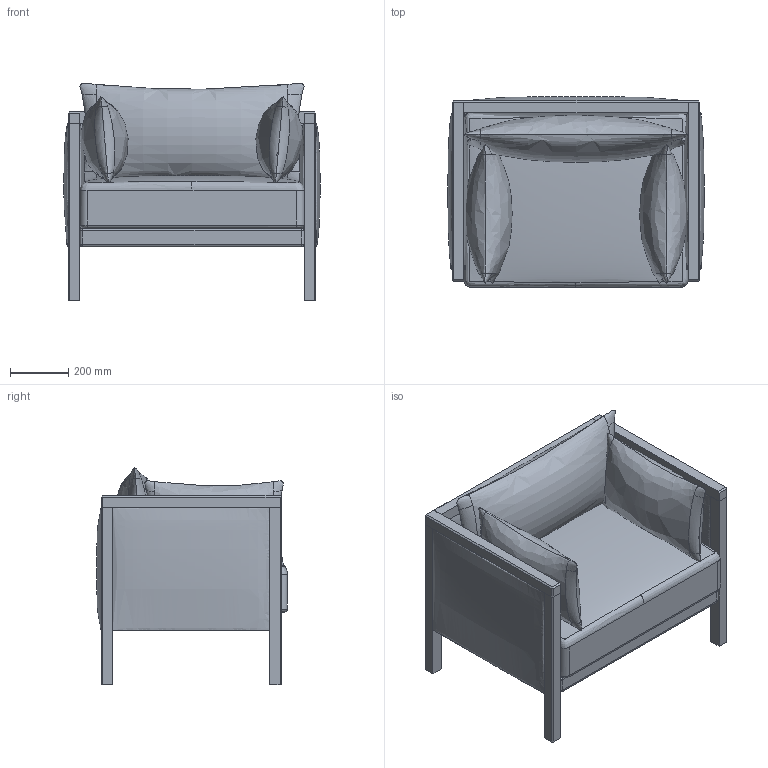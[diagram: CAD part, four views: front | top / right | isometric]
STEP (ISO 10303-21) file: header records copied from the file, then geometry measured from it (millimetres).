
FILE_DESCRIPTION(/* description */ (''),/* implementation_level */ '2;1');
FILE_NAME(/* name */ 'KINOSH~1',/* time_stamp */ '2019-07-22T16:14:55+09:00',/* author */ (''),/* organization */ (''),/* preprocessor_version */ 'ST-DEVELOPER v15',/* originating_system */ '',/* authorisation */ '');
FILE_SCHEMA (('AUTOMOTIVE_DESIGN'));
Length unit declared in the file: millimetre
Products named in the file (1): Document
Bounding box: 880 x 654.95 x 747.65 mm (x, y, z)
Volume: 158570613.7 mm3; surface area: 5852258.9 mm2
Topology: 12 solids, 18 shells, 147 faces, 347 edges, 202 vertices
Faces by surface type: bspline 79, plane 68
Entity records: 84044 total; most frequent: CARTESIAN_POINT 81847, ORIENTED_EDGE 614, EDGE_CURVE 319, B_SPLINE_CURVE_WITH_KNOTS 281, VERTEX_POINT 202, ADVANCED_FACE 147, FACE_OUTER_BOUND 147, EDGE_LOOP 147
